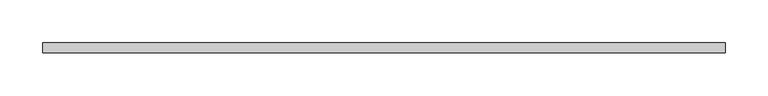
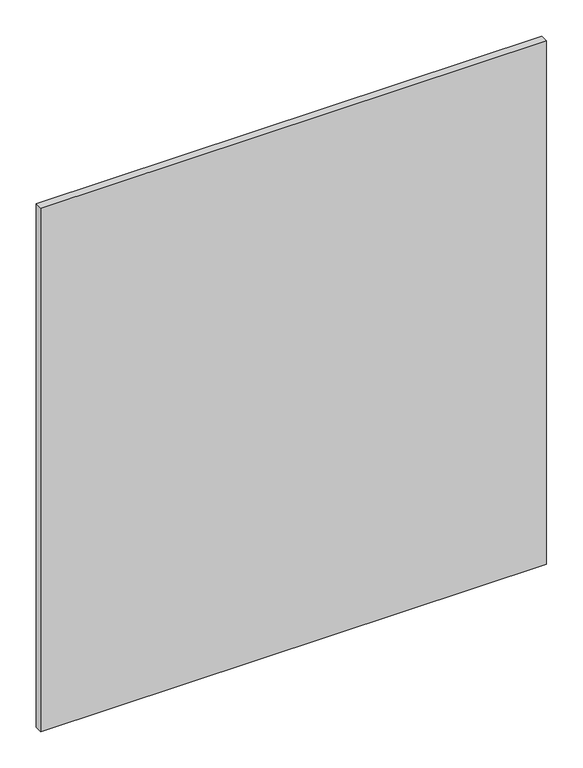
"""IFC4 building model written with IfcOpenShell, lengths in millimetres: plate geometry, VERTI AERO - prosklená výplň : Prosklená výplň."""

from ifc_helpers import new_model, si_unit, origin, origin_with_axes, place, context, project, spatial, polyline, outline, extrude, source, transform, mapped, element, save


def plate_1dc84ecd(model_context):
    return source(origin(), model_context, "Body", "SweptSolid", [
        extrude(outline(polyline([(400.0, 6.0), (400.0, -6.0), (-400.0, -6.0), (-400.0, 6.0), (400.0, 6.0)])), origin_with_axes(), (0.0, 0.0, 1.0), 875.0),
    ])


if __name__ == "__main__":
    model = new_model("IFC4")
    model_context = context("Model", 3, world=origin())
    ifc_project = project(units=[si_unit("LENGTHUNIT", "METRE", prefix="MILLI")], contexts=[model_context])
    site = spatial("IfcSite", under=ifc_project)
    building = spatial("IfcBuilding", under=site)
    placement = place(None, origin())
    plate_shape = plate_1dc84ecd(model_context)
    element("IfcPlate", 1, ObjectType="VERTI AERO - prosklená výplň : Prosklená výplň", at=placement, inside=building, context=model_context, shape_type="MappedRepresentation", body=[
        mapped(plate_shape, transform((0.0, 0.0, 0.0), x_axis=(1.0, 0.0, 0.0), y_axis=(0.0, 1.0, 0.0), z_axis=(0.0, 0.0, 1.0))),
    ])
    save(model, "model.ifc")
